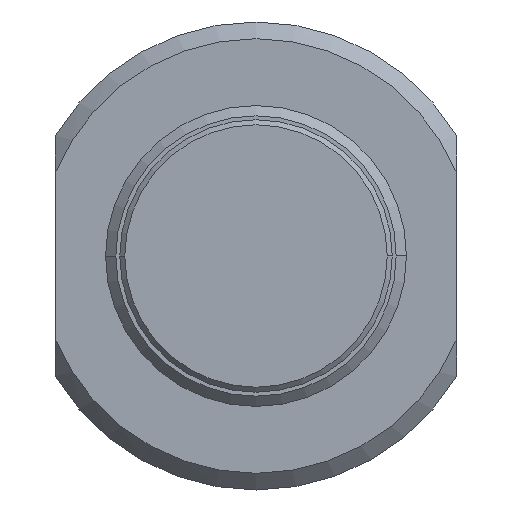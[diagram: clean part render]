
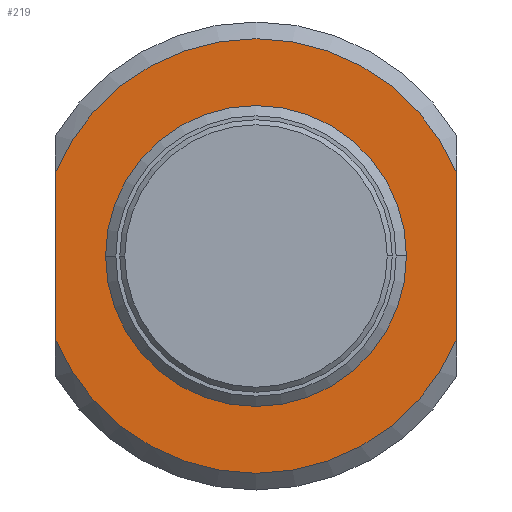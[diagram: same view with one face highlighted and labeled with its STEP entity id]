
A CAD part, left-side view. The second image highlights one B-rep face of the part: STEP entity #219.
In plain terms, the highlighted planar face has unit normal (-1, 0, 0).
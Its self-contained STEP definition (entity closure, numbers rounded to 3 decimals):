
#219 = ADVANCED_FACE( '', ( #341, #342 ), #343, .T. );
#341 = FACE_OUTER_BOUND( '', #485, .T. );
#342 = FACE_BOUND( '', #486, .T. );
#343 = PLANE( '', #487 );
#485 = EDGE_LOOP( '', ( #882, #883, #884, #885 ) );
#486 = EDGE_LOOP( '', ( #886, #887 ) );
#487 = AXIS2_PLACEMENT_3D( '', #888, #889, #890 );
#882 = ORIENTED_EDGE( '', *, *, #1122, .T. );
#883 = ORIENTED_EDGE( '', *, *, #1147, .F. );
#884 = ORIENTED_EDGE( '', *, *, #1130, .T. );
#885 = ORIENTED_EDGE( '', *, *, #1143, .F. );
#886 = ORIENTED_EDGE( '', *, *, #1146, .T. );
#887 = ORIENTED_EDGE( '', *, *, #1113, .T. );
#888 = CARTESIAN_POINT( '', ( 27.5, -11., 0. ) );
#889 = DIRECTION( '', ( -1., 0., 0. ) );
#890 = DIRECTION( '', ( 0., 1., 0. ) );
#1113 = EDGE_CURVE( '', #1313, #1310, #1314, .T. );
#1122 = EDGE_CURVE( '', #1328, #1329, #1330, .T. );
#1130 = EDGE_CURVE( '', #1344, #1345, #1346, .T. );
#1143 = EDGE_CURVE( '', #1328, #1345, #1365, .T. );
#1146 = EDGE_CURVE( '', #1310, #1313, #1368, .T. );
#1147 = EDGE_CURVE( '', #1344, #1329, #1369, .T. );
#1310 = VERTEX_POINT( '', #1588 );
#1313 = VERTEX_POINT( '', #1592 );
#1314 = CIRCLE( '', #1593, 9. );
#1328 = VERTEX_POINT( '', #1612 );
#1329 = VERTEX_POINT( '', #1613 );
#1330 = LINE( '', #1614, #1615 );
#1344 = VERTEX_POINT( '', #1668 );
#1345 = VERTEX_POINT( '', #1669 );
#1346 = LINE( '', #1670, #1671 );
#1365 = CIRCLE( '', #1729, 13. );
#1368 = CIRCLE( '', #1732, 9. );
#1369 = CIRCLE( '', #1733, 13. );
#1588 = CARTESIAN_POINT( '', ( 27.5, -9., 0. ) );
#1592 = CARTESIAN_POINT( '', ( 27.5, 9., 0. ) );
#1593 = AXIS2_PLACEMENT_3D( '', #2049, #2050, #2051 );
#1612 = CARTESIAN_POINT( '', ( 27.5, -12., -5. ) );
#1613 = CARTESIAN_POINT( '', ( 27.5, -12., 5. ) );
#1614 = CARTESIAN_POINT( '', ( 27.5, -12., 5. ) );
#1615 = VECTOR( '', #2066, 1. );
#1668 = CARTESIAN_POINT( '', ( 27.5, 12., 5. ) );
#1669 = CARTESIAN_POINT( '', ( 27.5, 12., -5. ) );
#1670 = CARTESIAN_POINT( '', ( 27.5, 12., 5. ) );
#1671 = VECTOR( '', #2070, 1. );
#1729 = AXIS2_PLACEMENT_3D( '', #2089, #2090, #2091 );
#1732 = AXIS2_PLACEMENT_3D( '', #2098, #2099, #2100 );
#1733 = AXIS2_PLACEMENT_3D( '', #2101, #2102, #2103 );
#2049 = CARTESIAN_POINT( '', ( 27.5, 0., 0. ) );
#2050 = DIRECTION( '', ( 1., 0., 0. ) );
#2051 = DIRECTION( '', ( 0., -1., 0. ) );
#2066 = DIRECTION( '', ( 0., 0., 1. ) );
#2070 = DIRECTION( '', ( 0., 0., -1. ) );
#2089 = CARTESIAN_POINT( '', ( 27.5, 0., 0. ) );
#2090 = DIRECTION( '', ( 1., 0., 0. ) );
#2091 = DIRECTION( '', ( 0., -1., 0. ) );
#2098 = CARTESIAN_POINT( '', ( 27.5, 0., 0. ) );
#2099 = DIRECTION( '', ( 1., 0., 0. ) );
#2100 = DIRECTION( '', ( 0., -1., 0. ) );
#2101 = CARTESIAN_POINT( '', ( 27.5, 0., 0. ) );
#2102 = DIRECTION( '', ( 1., 0., 0. ) );
#2103 = DIRECTION( '', ( 0., -1., 0. ) );
